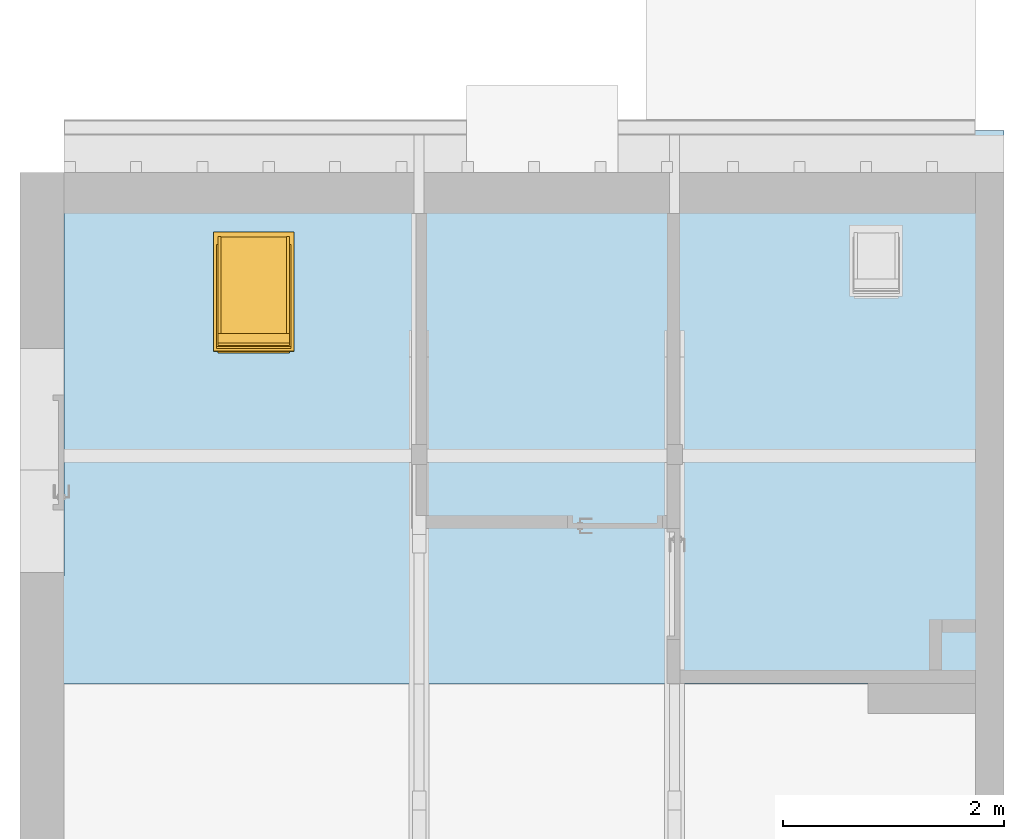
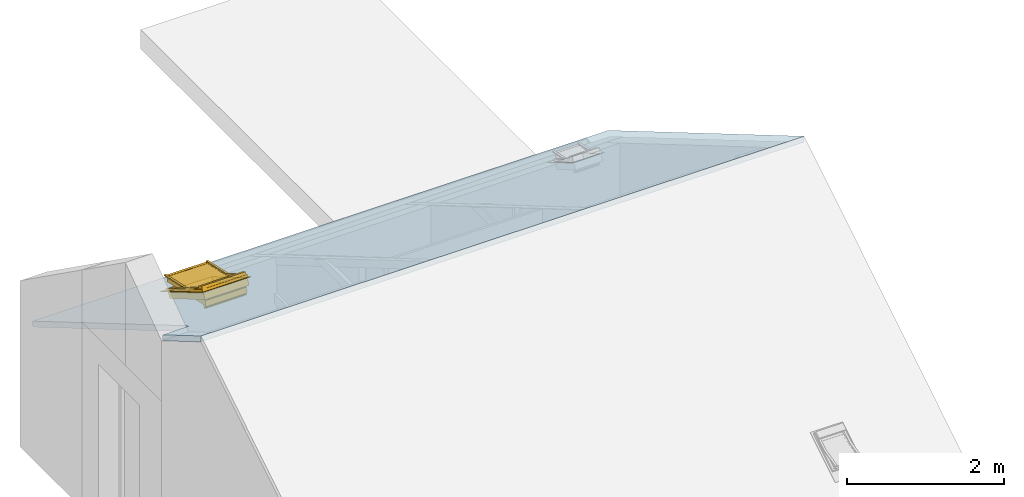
"""IFC4 building model written with IfcOpenShell, lengths in metres."""

from ifc_helpers import new_model, entity, si_unit, converted_unit, derived_unit, frame, frame_2d, origin, origin_with_axes, place, context, subcontext, project, spatial, rectangle, extrude, closed_shell, open_shell, faceted_brep, surface_model, source, transform, mapped, element, fill, aggregate, save


model = new_model("IFC4")

# Units and contexts
model_context = context("Model", 3, precision=1e-05, world=origin())
body_context = subcontext(model_context, "Body", "Model", "MODEL_VIEW")
ifc_project = project(units=[si_unit("LENGTHUNIT", "METRE"), si_unit("AREAUNIT", "SQUARE_METRE"), si_unit("VOLUMEUNIT", "CUBIC_METRE"), si_unit("MASSUNIT", "GRAM", prefix="KILO"), converted_unit("PLANEANGLEUNIT", "DEGREE", entity("IfcPlaneAngleMeasure", 0.0174532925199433), si_unit("PLANEANGLEUNIT", "RADIAN"), dimensions=[0, 0, 0, 0, 0, 0, 0]), derived_unit("THERMALTRANSMITTANCEUNIT", [(si_unit("POWERUNIT", "WATT"), 1), (si_unit("THERMODYNAMICTEMPERATUREUNIT", "KELVIN"), -1), (si_unit("LENGTHUNIT", "METRE"), -2)]), derived_unit("VOLUMETRICFLOWRATEUNIT", [(si_unit("LENGTHUNIT", "METRE"), 3), (converted_unit("TIMEUNIT", "hour", entity("IfcTimeMeasure", 3600.0), si_unit("TIMEUNIT", "SECOND"), dimensions=[0, 0, 1, 0, 0, 0, 0]), -1), (si_unit("LENGTHUNIT", "METRE"), -1)])], contexts=[model_context])

# Building, storeys
building_placement = place(None, origin())
building = spatial("IfcBuilding", under=ifc_project, at=building_placement, Name="Bestandsgebäude A - Sporthalle / Wohnhaus (TB 100-499)   ANPASSEN !!!", CompositionType="ELEMENT")
storey_1_placement = place(building_placement, frame((0.0, 0.0, 7.71)))
storey_1 = spatial("IfcBuildingStorey", under=building, at=storey_1_placement, Name="Geb. A Dachgeschoss (TB 450-499)", CompositionType="ELEMENT", Elevation=7.71)
storey_2_placement = place(storey_1_placement, frame((0.0, 0.0, 7.71)))
storey_2 = spatial("IfcBuildingStorey", under=storey_1, at=storey_2_placement, Name="Architektur (TB 450-459)", CompositionType="PARTIAL")

# Roof, slab, openings, window
roof_placement = place(storey_2_placement, frame((0.0, 0.0, -15.42)))
roof = element("IfcRoof", 1, at=roof_placement, inside=storey_2, PredefinedType="NOTDEFINED")
slab_placement = place(roof_placement, frame((-8.9, 4.62388384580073, 8.83032636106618)))
slab = element("IfcSlab", 2, at=slab_placement, PredefinedType="ROOF", context=body_context, shape_type="Brep", body=[
    faceted_brep([(8.9, 0.00103538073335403, 2.91966265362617), (8.9, 4.96556121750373, 0.0), (0.400000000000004, 4.96556121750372, 0.0), (0.399999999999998, 0.939365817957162, 2.36782579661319), (8.71746334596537e-05, 0.939365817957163, 2.36782579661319), (9.60849683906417e-08, 0.00103538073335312, 2.91966265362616), (1.78891452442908, 3.90897577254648, 0.621383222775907), (2.43891452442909, 3.90897577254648, 0.621383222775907), (2.43891452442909, 3.003893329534, 1.15366676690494), (1.78891452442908, 3.003893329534, 1.15366676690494), (7.54391452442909, 3.9734799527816, 0.583447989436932), (7.94391452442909, 3.9734799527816, 0.583447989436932), (7.94391452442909, 3.49938914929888, 0.862263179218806), (7.54391452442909, 3.49938914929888, 0.862263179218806), (8.9, 0.0, 3.01308079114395), (0.0, 0.0, 3.01308079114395), (9.09381957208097e-05, 0.979920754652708, 2.43678445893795), (0.399999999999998, 0.979920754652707, 2.43678445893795), (0.400000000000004, 5.00611615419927, 0.0689586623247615), (8.9, 5.00611615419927, 0.0689586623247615), (2.43891452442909, 3.94953070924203, 0.690341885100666), (1.78891452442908, 3.94953070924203, 0.690341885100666), (1.78891452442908, 3.04444826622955, 1.2226254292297), (2.43891452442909, 3.04444826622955, 1.2226254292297), (7.94391452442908, 4.01403488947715, 0.652406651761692), (7.54391452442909, 4.01403488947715, 0.652406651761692), (7.54391452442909, 3.53994408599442, 0.931221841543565), (7.94391452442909, 3.53994408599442, 0.931221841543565), (8.9, 5.00611615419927, 0.0), (0.399999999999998, 0.979920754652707, 2.36782579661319), (0.400000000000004, 5.00611615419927, 0.0), (9.09381957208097e-05, 0.979920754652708, 2.36782579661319)], [[[0, 1, 2, 3, 4, 5], [6, 7, 8, 9], [10, 11, 12, 13]], [[14, 15, 16, 17, 18, 19], [20, 21, 22, 23], [24, 25, 26, 27]], [[14, 19, 28, 1, 0]], [[18, 17, 29, 3, 2, 30]], [[16, 15, 5, 4, 31]], [[15, 14, 0, 5]], [[28, 30, 2, 1]], [[19, 18, 30, 28]], [[29, 31, 4, 3]], [[17, 16, 31, 29]], [[20, 7, 6, 21]], [[22, 9, 8, 23]], [[20, 23, 8, 7]], [[22, 21, 6, 9]], [[24, 11, 10, 25]], [[26, 13, 12, 27]], [[24, 27, 12, 11]], [[26, 25, 10, 13]]], orient=[[False, False, False], [False, False, False], [False], [False], [False], [False], [False], [False], [False], [False], [False], [False], [False], [False], [False], [False], [False], [False]]),
])
opening_1_placement = place(slab_placement, frame((2.43891452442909, 3.94953070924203, 0.690341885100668), z_axis=(-2.35561360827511e-16, 0.506936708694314, 0.861983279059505), x_axis=(1.0, 4.64676076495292e-16, 0.0)))
opening_1 = element("IfcOpeningElement", 3, at=opening_1_placement, cuts=slab, Name="Skylight", ObjectType="Opening", context=body_context, shape_type="SweptSolid", body=[
    extrude(rectangle(XDim=0.65, YDim=1.05, at=frame_2d((-0.325, -0.525), x_axis=(-1.0, 0.0))), origin_with_axes(), (0.0, 0.0, -1.0), 0.08),
])
opening_2_placement = place(slab_placement, frame((7.94391452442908, 4.01403488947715, 0.652406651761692), z_axis=(-2.35561360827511e-16, 0.506936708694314, 0.861983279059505), x_axis=(1.0, 4.64676076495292e-16, 0.0)))
element("IfcOpeningElement", 4, at=opening_2_placement, cuts=slab, Name="Skylight", ObjectType="Opening", context=body_context, shape_type="SweptSolid", body=[
    extrude(rectangle(XDim=0.4, YDim=0.55, at=frame_2d((-0.2, -0.275), x_axis=(-1.0, 2.27373675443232e-15))), origin_with_axes(), (0.0, 0.0, -1.0), 0.08),
])
shared_shape = source(origin_with_axes(), body_context, "Body", "SurfaceModel", [
    surface_model("IfcShellBasedSurfaceModel", [(0.03, 0.15, 0.226476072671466), (0.03, 0.15, 0.266476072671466), (0.049999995, 0.15, 0.266476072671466), (0.049999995, 0.15, 0.226476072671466), (0.03, 1.22, 0.266476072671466), (0.03, 1.22, 0.226476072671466), (0.049999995, 1.22, 0.226476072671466), (0.049999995, 1.22, 0.266476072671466)], [closed_shell([[[0, 1, 2, 3]], [[4, 5, 6, 7]], [[1, 0, 5, 4]], [[2, 1, 4, 7]], [[3, 2, 7, 6]], [[0, 3, 6, 5]]], orient=[[False], [False], [False], [False], [False], [False]])]),
    surface_model("IfcShellBasedSurfaceModel", [(0.680000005, 0.15, 0.226476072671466), (0.680000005, 0.15, 0.266476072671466), (0.7, 0.15, 0.266476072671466), (0.7, 0.15, 0.226476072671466), (0.680000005, 1.22, 0.266476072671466), (0.680000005, 1.22, 0.226476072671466), (0.7, 1.22, 0.226476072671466), (0.7, 1.22, 0.266476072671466)], [closed_shell([[[0, 1, 2, 3]], [[4, 5, 6, 7]], [[1, 0, 5, 4]], [[2, 1, 4, 7]], [[3, 2, 7, 6]], [[0, 3, 6, 5]]], orient=[[False], [False], [False], [False], [False], [False]])]),
    surface_model("IfcShellBasedSurfaceModel", [(0.049999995, 0.15, 0.226476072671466), (0.049999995, 0.15, 0.261476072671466), (0.680000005, 0.15, 0.261476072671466), (0.680000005, 0.15, 0.226476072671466), (0.049999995, 0.169999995, 0.261476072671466), (0.049999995, 0.169999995, 0.226476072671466), (0.680000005, 0.169999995, 0.226476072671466), (0.680000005, 0.169999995, 0.261476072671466)], [closed_shell([[[0, 1, 2, 3]], [[4, 5, 6, 7]], [[1, 0, 5, 4]], [[2, 1, 4, 7]], [[3, 2, 7, 6]], [[0, 3, 6, 5]]], orient=[[False], [False], [False], [False], [False], [False]])]),
    surface_model("IfcShellBasedSurfaceModel", [(0.049999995, 1.200000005, 0.226476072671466), (0.049999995, 1.200000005, 0.266476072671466), (0.680000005, 1.200000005, 0.266476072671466), (0.680000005, 1.200000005, 0.226476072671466), (0.049999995, 1.22, 0.266476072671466), (0.049999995, 1.22, 0.226476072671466), (0.680000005, 1.22, 0.226476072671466), (0.680000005, 1.22, 0.266476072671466)], [closed_shell([[[0, 1, 2, 3]], [[4, 5, 6, 7]], [[1, 0, 5, 4]], [[2, 1, 4, 7]], [[3, 2, 7, 6]], [[0, 3, 6, 5]]], orient=[[False], [False], [False], [False], [False], [False]])]),
    surface_model("IfcShellBasedSurfaceModel", [(0.0, 0.0, 0.226476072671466), (0.0, 0.0, 0.231476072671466), (0.03, 0.0, 0.231476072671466), (0.03, 0.0, 0.226476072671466), (0.0, 1.22, 0.231476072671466), (0.0, 1.22, 0.226476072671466), (0.03, 1.22, 0.226476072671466), (0.03, 1.22, 0.231476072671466)], [closed_shell([[[0, 1, 2, 3]], [[4, 5, 6, 7]], [[1, 0, 5, 4]], [[2, 1, 4, 7]], [[3, 2, 7, 6]], [[0, 3, 6, 5]]], orient=[[False], [False], [False], [False], [False], [False]])]),
    surface_model("IfcShellBasedSurfaceModel", [(0.03, 0.0, 0.226476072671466), (0.03, 0.0, 0.231476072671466), (0.7, 0.0, 0.231476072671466), (0.7, 0.0, 0.226476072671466), (0.03, 0.15, 0.231476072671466), (0.03, 0.15, 0.226476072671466), (0.7, 0.15, 0.226476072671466), (0.7, 0.15, 0.231476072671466)], [closed_shell([[[0, 1, 2, 3]], [[4, 5, 6, 7]], [[1, 0, 5, 4]], [[2, 1, 4, 7]], [[3, 2, 7, 6]], [[0, 3, 6, 5]]], orient=[[False], [False], [False], [False], [False], [False]])]),
    surface_model("IfcShellBasedSurfaceModel", [(0.7, 0.0, 0.226476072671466), (0.7, 0.0, 0.231476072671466), (0.73, 0.0, 0.231476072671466), (0.73, 0.0, 0.226476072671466), (0.7, 1.22, 0.231476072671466), (0.7, 1.22, 0.226476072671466), (0.73, 1.22, 0.226476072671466), (0.73, 1.22, 0.231476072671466)], [closed_shell([[[0, 1, 2, 3]], [[4, 5, 6, 7]], [[1, 0, 5, 4]], [[2, 1, 4, 7]], [[3, 2, 7, 6]], [[0, 3, 6, 5]]], orient=[[False], [False], [False], [False], [False], [False]])]),
    surface_model("IfcShellBasedSurfaceModel", [(0.0, 1.22, 0.226476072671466), (0.0, 1.22, 0.231476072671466), (0.73, 1.22, 0.231476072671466), (0.73, 1.22, 0.226476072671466), (0.0, 1.25, 0.231476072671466), (0.0, 1.25, 0.226476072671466), (0.73, 1.25, 0.226476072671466), (0.73, 1.25, 0.231476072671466)], [closed_shell([[[0, 1, 2, 3]], [[4, 5, 6, 7]], [[1, 0, 5, 4]], [[2, 1, 4, 7]], [[3, 2, 7, 6]], [[0, 3, 6, 5]]], orient=[[False], [False], [False], [False], [False], [False]])]),
    surface_model("IfcShellBasedSurfaceModel", [(0.049999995, 0.17999999, 0.226476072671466), (0.049999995, 0.17999999, 0.266476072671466), (0.05999999, 0.17999999, 0.266476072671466), (0.05999999, 0.17999999, 0.126476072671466), (0.04, 0.17999999, 0.126476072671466), (0.04, 0.17999999, 0.226476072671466), (0.049999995, 1.19000001, 0.266476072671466), (0.049999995, 1.19000001, 0.226476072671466), (0.04, 1.19000001, 0.226476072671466), (0.04, 1.19000001, 0.126476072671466), (0.05999999, 1.19000001, 0.126476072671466), (0.05999999, 1.19000001, 0.266476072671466)], [closed_shell([[[0, 1, 2, 3, 4, 5]], [[6, 7, 8, 9, 10, 11]], [[1, 0, 7, 6]], [[2, 1, 6, 11]], [[3, 2, 11, 10]], [[4, 3, 10, 9]], [[5, 4, 9, 8]], [[0, 5, 8, 7]]], orient=[[False], [False], [False], [False], [False], [False], [False], [False]])]),
    surface_model("IfcShellBasedSurfaceModel", [(0.67000001, 0.17999999, 0.126476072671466), (0.67000001, 0.17999999, 0.266476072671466), (0.680000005, 0.17999999, 0.266476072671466), (0.680000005, 0.17999999, 0.226476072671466), (0.69, 0.17999999, 0.226476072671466), (0.69, 0.17999999, 0.126476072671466), (0.67000001, 1.19000001, 0.266476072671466), (0.67000001, 1.19000001, 0.126476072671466), (0.69, 1.19000001, 0.126476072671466), (0.69, 1.19000001, 0.226476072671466), (0.680000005, 1.19000001, 0.226476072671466), (0.680000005, 1.19000001, 0.266476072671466)], [closed_shell([[[0, 1, 2, 3, 4, 5]], [[6, 7, 8, 9, 10, 11]], [[1, 0, 7, 6]], [[2, 1, 6, 11]], [[3, 2, 11, 10]], [[4, 3, 10, 9]], [[5, 4, 9, 8]], [[0, 5, 8, 7]]], orient=[[False], [False], [False], [False], [False], [False], [False], [False]])]),
    surface_model("IfcShellBasedSurfaceModel", [(0.04, 0.17999999, 0.261476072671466), (0.04, 0.169999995, 0.261476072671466), (0.04, 0.169999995, 0.226476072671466), (0.04, 0.16, 0.226476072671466), (0.04, 0.16, 0.126476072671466), (0.04, 0.17999999, 0.126476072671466), (0.69, 0.169999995, 0.261476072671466), (0.69, 0.17999999, 0.261476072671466), (0.69, 0.17999999, 0.126476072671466), (0.69, 0.16, 0.126476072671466), (0.69, 0.16, 0.226476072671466), (0.69, 0.169999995, 0.226476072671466)], [closed_shell([[[0, 1, 2, 3, 4, 5]], [[6, 7, 8, 9, 10, 11]], [[1, 0, 7, 6]], [[2, 1, 6, 11]], [[3, 2, 11, 10]], [[4, 3, 10, 9]], [[5, 4, 9, 8]], [[0, 5, 8, 7]]], orient=[[False], [False], [False], [False], [False], [False], [False], [False]])]),
    surface_model("IfcShellBasedSurfaceModel", [(0.04, 1.200000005, 0.266476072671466), (0.04, 1.19000001, 0.266476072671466), (0.04, 1.19000001, 0.126476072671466), (0.04, 1.21, 0.126476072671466), (0.04, 1.21, 0.226476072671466), (0.04, 1.200000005, 0.226476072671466), (0.69, 1.19000001, 0.266476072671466), (0.69, 1.200000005, 0.266476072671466), (0.69, 1.200000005, 0.226476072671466), (0.69, 1.21, 0.226476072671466), (0.69, 1.21, 0.126476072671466), (0.69, 1.19000001, 0.126476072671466)], [closed_shell([[[0, 1, 2, 3, 4, 5]], [[6, 7, 8, 9, 10, 11]], [[1, 0, 7, 6]], [[2, 1, 6, 11]], [[3, 2, 11, 10]], [[4, 3, 10, 9]], [[5, 4, 9, 8]], [[0, 5, 8, 7]]], orient=[[False], [False], [False], [False], [False], [False], [False], [False]])]),
    surface_model("IfcShellBasedSurfaceModel", [(0.03999999, 0.685, 0.266476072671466), (0.03999999, 0.685, 0.281476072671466), (0.06999999, 0.685, 0.281476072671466), (0.06999999, 0.685, 0.266476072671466), (0.03999999, 1.19000001, 0.281476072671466), (0.03999999, 1.19000001, 0.266476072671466), (0.06999999, 1.19000001, 0.266476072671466), (0.06999999, 1.19000001, 0.281476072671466)], [closed_shell([[[0, 1, 2, 3]], [[4, 5, 6, 7]], [[1, 0, 5, 4]], [[2, 1, 4, 7]], [[3, 2, 7, 6]], [[0, 3, 6, 5]]], orient=[[False], [False], [False], [False], [False], [False]])]),
    surface_model("IfcShellBasedSurfaceModel", [(0.66000001, 0.685, 0.266476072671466), (0.66000001, 0.685, 0.281476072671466), (0.69000001, 0.685, 0.281476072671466), (0.69000001, 0.685, 0.266476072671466), (0.66000001, 1.19000001, 0.281476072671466), (0.66000001, 1.19000001, 0.266476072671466), (0.69000001, 1.19000001, 0.266476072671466), (0.69000001, 1.19000001, 0.281476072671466)], [closed_shell([[[0, 1, 2, 3]], [[4, 5, 6, 7]], [[1, 0, 5, 4]], [[2, 1, 4, 7]], [[3, 2, 7, 6]], [[0, 3, 6, 5]]], orient=[[False], [False], [False], [False], [False], [False]])]),
    surface_model("IfcShellBasedSurfaceModel", [(0.04, 1.11000001, 0.266476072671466), (0.04, 1.11000001, 0.306476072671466), (0.69, 1.11000001, 0.306476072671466), (0.69, 1.11000001, 0.266476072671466), (0.04, 1.21, 0.306476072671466), (0.04, 1.21, 0.266476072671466), (0.69, 1.21, 0.266476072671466), (0.69, 1.21, 0.306476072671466)], [closed_shell([[[0, 1, 2, 3]], [[4, 5, 6, 7]], [[1, 0, 5, 4]], [[2, 1, 4, 7]], [[3, 2, 7, 6]], [[0, 3, 6, 5]]], orient=[[False], [False], [False], [False], [False], [False]])]),
    surface_model("IfcShellBasedSurfaceModel", [(0.07999998, 0.218329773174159, 0.41470583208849), (0.65000002, 0.218329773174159, 0.41470583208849), (0.65000002, 1.08379123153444, 0.133500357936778), (0.07999998, 1.08379123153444, 0.133500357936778)], [open_shell([[[0, 1, 2, 3]]], orient=[[False]])]),
    surface_model("IfcShellBasedSurfaceModel", [(0.069999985, 0.208046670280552, 0.415418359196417), (0.069999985, 0.209591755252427, 0.420173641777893), (0.07999998, 0.209591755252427, 0.420173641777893), (0.07999998, 0.208046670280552, 0.415418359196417), (0.069999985, 1.09407433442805, 0.132787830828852), (0.069999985, 1.09252924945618, 0.128032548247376), (0.07999998, 1.09252924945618, 0.128032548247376), (0.07999998, 1.09407433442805, 0.132787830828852)], [closed_shell([[[0, 1, 2, 3]], [[4, 5, 6, 7]], [[1, 0, 5, 4]], [[2, 1, 4, 7]], [[3, 2, 7, 6]], [[0, 3, 6, 5]]], orient=[[False], [False], [False], [False], [False], [False]])]),
    surface_model("IfcShellBasedSurfaceModel", [(0.65000002, 0.208046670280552, 0.415418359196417), (0.65000002, 0.209591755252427, 0.420173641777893), (0.660000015, 0.209591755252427, 0.420173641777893), (0.660000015, 0.208046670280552, 0.415418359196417), (0.65000002, 1.09407433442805, 0.132787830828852), (0.65000002, 1.09252924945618, 0.128032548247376), (0.660000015, 1.09252924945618, 0.128032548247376), (0.660000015, 1.09407433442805, 0.132787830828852)], [closed_shell([[[0, 1, 2, 3]], [[4, 5, 6, 7]], [[1, 0, 5, 4]], [[2, 1, 4, 7]], [[3, 2, 7, 6]], [[0, 3, 6, 5]]], orient=[[False], [False], [False], [False], [False], [False]])]),
    surface_model("IfcShellBasedSurfaceModel", [(0.07999998, 0.208046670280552, 0.415418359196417), (0.07999998, 0.209591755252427, 0.420173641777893), (0.65000002, 0.209591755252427, 0.420173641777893), (0.65000002, 0.208046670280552, 0.415418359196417), (0.07999998, 0.219102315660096, 0.417083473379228), (0.07999998, 0.217557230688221, 0.412328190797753), (0.65000002, 0.217557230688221, 0.412328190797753), (0.65000002, 0.219102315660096, 0.417083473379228)], [closed_shell([[[0, 1, 2, 3]], [[4, 5, 6, 7]], [[1, 0, 5, 4]], [[2, 1, 4, 7]], [[3, 2, 7, 6]], [[0, 3, 6, 5]]], orient=[[False], [False], [False], [False], [False], [False]])]),
    surface_model("IfcShellBasedSurfaceModel", [(0.07999998, 1.08301868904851, 0.131122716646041), (0.07999998, 1.08456377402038, 0.135877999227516), (0.65000002, 1.08456377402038, 0.135877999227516), (0.65000002, 1.08301868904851, 0.131122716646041), (0.07999998, 1.09407433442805, 0.132787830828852), (0.07999998, 1.09252924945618, 0.128032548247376), (0.65000002, 1.09252924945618, 0.128032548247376), (0.65000002, 1.09407433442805, 0.132787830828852)], [closed_shell([[[0, 1, 2, 3]], [[4, 5, 6, 7]], [[1, 0, 5, 4]], [[2, 1, 4, 7]], [[3, 2, 7, 6]], [[0, 3, 6, 5]]], orient=[[False], [False], [False], [False], [False], [False]])]),
    surface_model("IfcShellBasedSurfaceModel", [(0.05999999, 0.175359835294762, 0.347179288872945), (0.05999999, 0.200081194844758, 0.423263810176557), (0.069999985, 0.200081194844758, 0.423263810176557), (0.069999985, 0.198536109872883, 0.418508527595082), (0.07999998, 0.198536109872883, 0.418508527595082), (0.07999998, 0.175359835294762, 0.347179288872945), (0.05999999, 1.16064829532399, 0.111156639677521), (0.05999999, 1.135926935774, 0.0350721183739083), (0.07999998, 1.135926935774, 0.0350721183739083), (0.07999998, 1.15910321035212, 0.106401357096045), (0.069999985, 1.15910321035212, 0.106401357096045), (0.069999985, 1.16064829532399, 0.111156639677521)], [closed_shell([[[0, 1, 2, 3, 4, 5]], [[6, 7, 8, 9, 10, 11]], [[1, 0, 7, 6]], [[2, 1, 6, 11]], [[3, 2, 11, 10]], [[4, 3, 10, 9]], [[5, 4, 9, 8]], [[0, 5, 8, 7]]], orient=[[False], [False], [False], [False], [False], [False], [False], [False]])]),
    surface_model("IfcShellBasedSurfaceModel", [(0.660000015, 0.198536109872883, 0.418508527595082), (0.660000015, 0.200081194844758, 0.423263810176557), (0.67000001, 0.200081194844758, 0.423263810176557), (0.67000001, 0.175359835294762, 0.347179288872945), (0.65000002, 0.175359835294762, 0.347179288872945), (0.65000002, 0.198536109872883, 0.418508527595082), (0.660000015, 1.16064829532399, 0.111156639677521), (0.660000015, 1.15910321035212, 0.106401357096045), (0.65000002, 1.15910321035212, 0.106401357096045), (0.65000002, 1.135926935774, 0.0350721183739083), (0.67000001, 1.135926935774, 0.0350721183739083), (0.67000001, 1.16064829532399, 0.111156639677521)], [closed_shell([[[0, 1, 2, 3, 4, 5]], [[6, 7, 8, 9, 10, 11]], [[1, 0, 7, 6]], [[2, 1, 6, 11]], [[3, 2, 11, 10]], [[4, 3, 10, 9]], [[5, 4, 9, 8]], [[0, 5, 8, 7]]], orient=[[False], [False], [False], [False], [False], [False], [False], [False]])]),
    surface_model("IfcShellBasedSurfaceModel", [(0.07999998, 0.175359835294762, 0.347179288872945), (0.07999998, 0.198536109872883, 0.418508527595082), (0.65000002, 0.198536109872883, 0.418508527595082), (0.65000002, 0.175359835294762, 0.347179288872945), (0.07999998, 0.217557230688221, 0.412328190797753), (0.07999998, 0.1943809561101, 0.340998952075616), (0.65000002, 0.1943809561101, 0.340998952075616), (0.65000002, 0.217557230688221, 0.412328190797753)], [closed_shell([[[0, 1, 2, 3]], [[4, 5, 6, 7]], [[1, 0, 5, 4]], [[2, 1, 4, 7]], [[3, 2, 7, 6]], [[0, 3, 6, 5]]], orient=[[False], [False], [False], [False], [False], [False]])]),
    surface_model("IfcShellBasedSurfaceModel", [(0.07999998, 1.05984241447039, 0.059793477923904), (0.07999998, 1.08301868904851, 0.131122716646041), (0.65000002, 1.08301868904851, 0.131122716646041), (0.65000002, 1.05984241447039, 0.059793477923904), (0.07999998, 1.15910321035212, 0.106401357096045), (0.07999998, 1.135926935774, 0.0350721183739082), (0.65000002, 1.135926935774, 0.0350721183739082), (0.65000002, 1.15910321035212, 0.106401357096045)], [closed_shell([[[0, 1, 2, 3]], [[4, 5, 6, 7]], [[1, 0, 5, 4]], [[2, 1, 4, 7]], [[3, 2, 7, 6]], [[0, 3, 6, 5]]], orient=[[False], [False], [False], [False], [False], [False]])]),
    surface_model("IfcShellBasedSurfaceModel", [(0.05999999, 1.06471772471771, 0.0424374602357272), (0.05999999, 1.06935297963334, 0.0567033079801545), (0.67000001, 1.06935297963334, 0.0567033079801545), (0.67000001, 1.06471772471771, 0.0424374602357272), (0.05999999, 1.12641637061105, 0.0381622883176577), (0.05999999, 1.12178111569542, 0.0238964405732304), (0.67000001, 1.12178111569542, 0.0238964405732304), (0.67000001, 1.12641637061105, 0.0381622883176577)], [closed_shell([[[0, 1, 2, 3]], [[4, 5, 6, 7]], [[1, 0, 5, 4]], [[2, 1, 4, 7]], [[3, 2, 7, 6]], [[0, 3, 6, 5]]], orient=[[False], [False], [False], [False], [False], [False]])]),
    surface_model("IfcShellBasedSurfaceModel", [(0.07499999, 1.07993615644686, 0.0164634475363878), (0.07499999, 1.08611649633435, 0.0354845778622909), (0.08999999, 1.08611649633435, 0.0354845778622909), (0.08999999, 1.07993615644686, 0.0164634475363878), (0.07499999, 1.10038234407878, 0.0308493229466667), (0.07499999, 1.09420200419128, 0.0118281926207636), (0.08999999, 1.09420200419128, 0.0118281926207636), (0.08999999, 1.10038234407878, 0.0308493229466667)], [closed_shell([[[0, 1, 2, 3]], [[4, 5, 6, 7]], [[1, 0, 5, 4]], [[2, 1, 4, 7]], [[3, 2, 7, 6]], [[0, 3, 6, 5]]], orient=[[False], [False], [False], [False], [False], [False]])]),
    surface_model("IfcShellBasedSurfaceModel", [(0.26333333, 1.07993615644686, 0.0164634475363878), (0.26333333, 1.08611649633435, 0.0354845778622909), (0.27833333, 1.08611649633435, 0.0354845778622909), (0.27833333, 1.07993615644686, 0.0164634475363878), (0.26333333, 1.10038234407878, 0.0308493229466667), (0.26333333, 1.09420200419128, 0.0118281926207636), (0.27833333, 1.09420200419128, 0.0118281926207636), (0.27833333, 1.10038234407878, 0.0308493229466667)], [closed_shell([[[0, 1, 2, 3]], [[4, 5, 6, 7]], [[1, 0, 5, 4]], [[2, 1, 4, 7]], [[3, 2, 7, 6]], [[0, 3, 6, 5]]], orient=[[False], [False], [False], [False], [False], [False]])]),
    surface_model("IfcShellBasedSurfaceModel", [(0.45166667, 1.07993615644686, 0.0164634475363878), (0.45166667, 1.08611649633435, 0.0354845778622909), (0.46666667, 1.08611649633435, 0.0354845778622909), (0.46666667, 1.07993615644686, 0.0164634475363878), (0.45166667, 1.10038234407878, 0.0308493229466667), (0.45166667, 1.09420200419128, 0.0118281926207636), (0.46666667, 1.09420200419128, 0.0118281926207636), (0.46666667, 1.10038234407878, 0.0308493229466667)], [closed_shell([[[0, 1, 2, 3]], [[4, 5, 6, 7]], [[1, 0, 5, 4]], [[2, 1, 4, 7]], [[3, 2, 7, 6]], [[0, 3, 6, 5]]], orient=[[False], [False], [False], [False], [False], [False]])]),
    surface_model("IfcShellBasedSurfaceModel", [(0.64000001, 1.07993615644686, 0.0164634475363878), (0.64000001, 1.08611649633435, 0.0354845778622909), (0.65500001, 1.08611649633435, 0.0354845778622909), (0.65500001, 1.07993615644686, 0.0164634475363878), (0.64000001, 1.10038234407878, 0.0308493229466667), (0.64000001, 1.09420200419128, 0.0118281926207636), (0.65500001, 1.09420200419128, 0.0118281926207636), (0.65500001, 1.10038234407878, 0.0308493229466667)], [closed_shell([[[0, 1, 2, 3]], [[4, 5, 6, 7]], [[1, 0, 5, 4]], [[2, 1, 4, 7]], [[3, 2, 7, 6]], [[0, 3, 6, 5]]], orient=[[False], [False], [False], [False], [False], [False]])]),
    surface_model("IfcShellBasedSurfaceModel", [(0.05999999, 1.06971306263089, 0.0092705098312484), (0.05999999, 1.07280323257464, 0.0187810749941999), (0.67000001, 1.07280323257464, 0.0187810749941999), (0.67000001, 1.06971306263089, 0.0092705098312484), (0.05999999, 1.1013349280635, 0.00951056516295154), (0.05999999, 1.09824475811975, 0.0), (0.67000001, 1.09824475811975, 0.0), (0.67000001, 1.1013349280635, 0.00951056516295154)], [closed_shell([[[0, 1, 2, 3]], [[4, 5, 6, 7]], [[1, 0, 5, 4]], [[2, 1, 4, 7]], [[3, 2, 7, 6]], [[0, 3, 6, 5]]], orient=[[False], [False], [False], [False], [False], [False]])]),
    surface_model("IfcShellBasedSurfaceModel", [(0.03999999, 0.171549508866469, 0.432534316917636), (0.03999999, 0.176184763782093, 0.446800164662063), (0.06999999, 0.176184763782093, 0.446800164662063), (0.06999999, 0.171549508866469, 0.432534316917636), (0.03999999, 0.685, 0.281476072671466), (0.03999999, 0.680364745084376, 0.267210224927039), (0.06999999, 0.680364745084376, 0.267210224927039), (0.06999999, 0.685, 0.281476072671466)], [closed_shell([[[0, 1, 2, 3]], [[4, 5, 6, 7]], [[1, 0, 5, 4]], [[2, 1, 4, 7]], [[3, 2, 7, 6]], [[0, 3, 6, 5]]], orient=[[False], [False], [False], [False], [False], [False]])]),
    surface_model("IfcShellBasedSurfaceModel", [(0.66000001, 0.171549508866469, 0.432534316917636), (0.66000001, 0.176184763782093, 0.446800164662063), (0.69000001, 0.176184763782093, 0.446800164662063), (0.69000001, 0.171549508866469, 0.432534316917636), (0.66000001, 0.685, 0.281476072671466), (0.66000001, 0.680364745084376, 0.267210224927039), (0.69000001, 0.680364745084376, 0.267210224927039), (0.69000001, 0.685, 0.281476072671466)], [closed_shell([[[0, 1, 2, 3]], [[4, 5, 6, 7]], [[1, 0, 5, 4]], [[2, 1, 4, 7]], [[3, 2, 7, 6]], [[0, 3, 6, 5]]], orient=[[False], [False], [False], [False], [False], [False]])]),
    surface_model("IfcShellBasedSurfaceModel", [(0.049999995, 0.170004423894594, 0.42777903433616), (0.049999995, 0.171549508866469, 0.432534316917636), (0.680000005, 0.171549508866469, 0.432534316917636), (0.680000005, 0.170004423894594, 0.42777903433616), (0.049999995, 0.209591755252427, 0.420173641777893), (0.049999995, 0.208046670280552, 0.415418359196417), (0.680000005, 0.208046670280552, 0.415418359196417), (0.680000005, 0.209591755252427, 0.420173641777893)], [closed_shell([[[0, 1, 2, 3]], [[4, 5, 6, 7]], [[1, 0, 5, 4]], [[2, 1, 4, 7]], [[3, 2, 7, 6]], [[0, 3, 6, 5]]], orient=[[False], [False], [False], [False], [False], [False]])]),
])
window_placement = place(opening_1_placement, frame((0.04, 0.16, -0.226476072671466), z_axis=(2.9764320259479e-16, 8.32667268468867e-16, 1.0), x_axis=(-1.0, 5.06105514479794e-16, 2.97643202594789e-16)))
window = element("IfcWindow", 5, at=window_placement, inside=storey_2, Name="1c white", OverallHeight=1.05, OverallWidth=0.65, PartitioningType="USERDEFINED", PredefinedType="SKYLIGHT", context=body_context, shape_type="MappedRepresentation", body=[
    mapped(shared_shape, transform((0.0, 0.0, 0.0), x_axis=(1.0, 0.0, 0.0), y_axis=(0.0, 1.0, 0.0), z_axis=(0.0, 0.0, 1.0), scale=1.0)),
])
fill(opening_1, window)
aggregate(roof, [slab])

save(model, "model.ifc")
